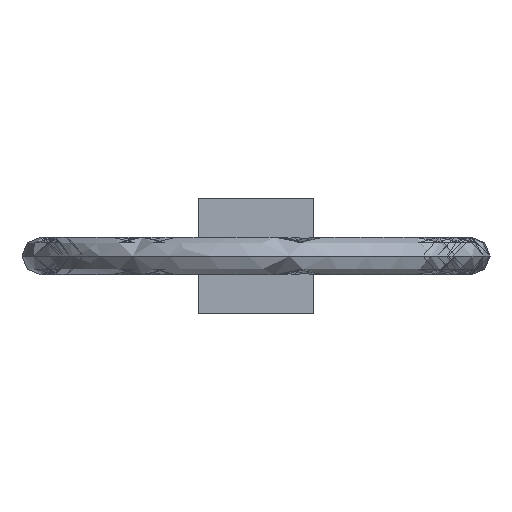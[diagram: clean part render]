
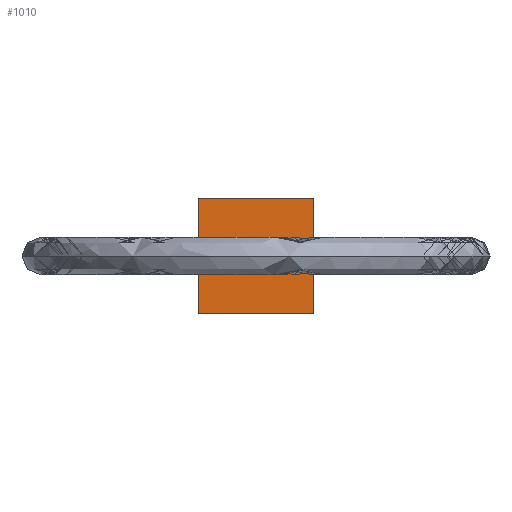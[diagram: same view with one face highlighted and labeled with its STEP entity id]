
A CAD part, left-side view. The second image highlights one B-rep face of the part: STEP entity #1010.
In plain terms, the highlighted planar face has unit normal (1, 0, 0).
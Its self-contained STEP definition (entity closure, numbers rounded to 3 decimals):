
#55 = CARTESIAN_POINT ( 'NONE',  ( -422., -0.405, 0. ) ) ;
#86 = ORIENTED_EDGE ( 'NONE', *, *, #1614, .F. ) ;
#218 = EDGE_LOOP ( 'NONE', ( #86, #689, #389, #329 ) ) ;
#227 = EDGE_CURVE ( 'NONE', #273, #281, #1073, .T. ) ;
#231 = VERTEX_POINT ( 'NONE', #1176 ) ;
#244 = ORIENTED_EDGE ( 'NONE', *, *, #227, .F. ) ;
#263 = EDGE_CURVE ( 'NONE', #231, #1403, #1816, .T. ) ;
#273 = VERTEX_POINT ( 'NONE', #55 ) ;
#281 = VERTEX_POINT ( 'NONE', #1017 ) ;
#287 = EDGE_CURVE ( 'NONE', #281, #273, #1312, .T. ) ;
#305 = ORIENTED_EDGE ( 'NONE', *, *, #287, .F. ) ;
#329 = ORIENTED_EDGE ( 'NONE', *, *, #782, .F. ) ;
#330 = VERTEX_POINT ( 'NONE', #686 ) ;
#389 = ORIENTED_EDGE ( 'NONE', *, *, #668, .F. ) ;
#668 = EDGE_CURVE ( 'NONE', #330, #231, #1441, .T. ) ;
#686 = CARTESIAN_POINT ( 'NONE',  ( -422., 1.25, -1.25 ) ) ;
#689 = ORIENTED_EDGE ( 'NONE', *, *, #263, .F. ) ;
#781 = EDGE_LOOP ( 'NONE', ( #305, #244 ) ) ;
#782 = EDGE_CURVE ( 'NONE', #1188, #330, #1534, .T. ) ;
#848 = CARTESIAN_POINT ( 'NONE',  ( -422., -1.25, 1.25 ) ) ;
#1010 = ADVANCED_FACE ( 'NONE', ( #1673, #1674 ), #1675, .T. ) ;
#1017 = CARTESIAN_POINT ( 'NONE',  ( -422., 0.405, 0. ) ) ;
#1073 = B_SPLINE_CURVE_WITH_KNOTS ( 'NONE', 3,
 ( #1074, #1075, #1076, #1077, #1078, #1079, #1080, #1081, #1086, #1087, #1088, #1089, #1090, #1091, #1092, #1093, #1094, #1095, #1096, #1097, #1098, #1099, #1100, #1101, #1103, #1104, #1105, #1106, #1107, #1108 ),
 .UNSPECIFIED., .F., .F.,
 ( 4, 2, 1, 1, 2, 2, 1, 2, 2, 2, 1, 2, 2, 1, 1, 2, 2, 4 ),
 ( 0., 0.125, 0.188, 0.219, 0.234, 0.25, 0.313, 0.344, 0.375, 0.5, 0.563, 0.594, 0.625, 0.688, 0.719, 0.734, 0.75, 1. ),
 .UNSPECIFIED. ) ;
#1074 = CARTESIAN_POINT ( 'NONE',  ( -422., -0.405, 0. ) ) ;
#1075 = CARTESIAN_POINT ( 'NONE',  ( -422., -0.405, -0.045 ) ) ;
#1076 = CARTESIAN_POINT ( 'NONE',  ( -422., -0.398, -0.088 ) ) ;
#1077 = CARTESIAN_POINT ( 'NONE',  ( -422., -0.378, -0.149 ) ) ;
#1078 = CARTESIAN_POINT ( 'NONE',  ( -422., -0.365, -0.178 ) ) ;
#1079 = CARTESIAN_POINT ( 'NONE',  ( -422., -0.346, -0.211 ) ) ;
#1080 = CARTESIAN_POINT ( 'NONE',  ( -422., -0.337, -0.225 ) ) ;
#1081 = CARTESIAN_POINT ( 'NONE',  ( -422., -0.331, -0.234 ) ) ;
#1086 = CARTESIAN_POINT ( 'NONE',  ( -422., -0.329, -0.237 ) ) ;
#1087 = CARTESIAN_POINT ( 'NONE',  ( -422., -0.306, -0.267 ) ) ;
#1088 = CARTESIAN_POINT ( 'NONE',  ( -422., -0.276, -0.299 ) ) ;
#1089 = CARTESIAN_POINT ( 'NONE',  ( -422., -0.241, -0.326 ) ) ;
#1090 = CARTESIAN_POINT ( 'NONE',  ( -422., -0.216, -0.343 ) ) ;
#1091 = CARTESIAN_POINT ( 'NONE',  ( -422., -0.206, -0.349 ) ) ;
#1092 = CARTESIAN_POINT ( 'NONE',  ( -422., -0.131, -0.389 ) ) ;
#1093 = CARTESIAN_POINT ( 'NONE',  ( -422., -0.068, -0.405 ) ) ;
#1094 = CARTESIAN_POINT ( 'NONE',  ( -422., 0.034, -0.405 ) ) ;
#1095 = CARTESIAN_POINT ( 'NONE',  ( -422., 0.083, -0.399 ) ) ;
#1096 = CARTESIAN_POINT ( 'NONE',  ( -422., 0.13, -0.384 ) ) ;
#1097 = CARTESIAN_POINT ( 'NONE',  ( -422., 0.161, -0.372 ) ) ;
#1098 = CARTESIAN_POINT ( 'NONE',  ( -422., 0.177, -0.364 ) ) ;
#1099 = CARTESIAN_POINT ( 'NONE',  ( -422., 0.217, -0.343 ) ) ;
#1100 = CARTESIAN_POINT ( 'NONE',  ( -422., 0.254, -0.318 ) ) ;
#1101 = CARTESIAN_POINT ( 'NONE',  ( -422., 0.291, -0.283 ) ) ;
#1103 = CARTESIAN_POINT ( 'NONE',  ( -422., 0.305, -0.266 ) ) ;
#1104 = CARTESIAN_POINT ( 'NONE',  ( -422., 0.315, -0.255 ) ) ;
#1105 = CARTESIAN_POINT ( 'NONE',  ( -422., 0.321, -0.248 ) ) ;
#1106 = CARTESIAN_POINT ( 'NONE',  ( -422., 0.378, -0.17 ) ) ;
#1107 = CARTESIAN_POINT ( 'NONE',  ( -422., 0.405, -0.09 ) ) ;
#1108 = CARTESIAN_POINT ( 'NONE',  ( -422., 0.405, 0. ) ) ;
#1161 = LINE ( 'NONE', #1162, #1163 ) ;
#1162 = CARTESIAN_POINT ( 'NONE',  ( -422., 0., 1.25 ) ) ;
#1163 = VECTOR ( 'NONE', #1164, 1000. ) ;
#1164 = DIRECTION ( 'NONE',  ( 0., 1., 0. ) ) ;
#1176 = CARTESIAN_POINT ( 'NONE',  ( -422., -1.25, -1.25 ) ) ;
#1188 = VERTEX_POINT ( 'NONE', #1873 ) ;
#1312 = B_SPLINE_CURVE_WITH_KNOTS ( 'NONE', 3,
 ( #1313, #1314, #1315, #1317, #1318, #1319, #1320, #1321, #1322, #1323, #1324, #1325, #1326, #1327, #1328, #1329, #1330, #1331, #1332, #1333, #1334, #1335, #1336, #1337, #1338, #1339, #1340, #1341, #1342, #1343 ),
 .UNSPECIFIED., .F., .F.,
 ( 4, 2, 1, 1, 2, 2, 1, 2, 2, 2, 1, 2, 2, 1, 1, 2, 2, 4 ),
 ( 0., 0.125, 0.187, 0.219, 0.234, 0.25, 0.312, 0.344, 0.375, 0.5, 0.562, 0.594, 0.625, 0.687, 0.719, 0.734, 0.75, 1. ),
 .UNSPECIFIED. ) ;
#1313 = CARTESIAN_POINT ( 'NONE',  ( -422., 0.405, 0. ) ) ;
#1314 = CARTESIAN_POINT ( 'NONE',  ( -422., 0.405, 0.045 ) ) ;
#1315 = CARTESIAN_POINT ( 'NONE',  ( -422., 0.398, 0.088 ) ) ;
#1317 = CARTESIAN_POINT ( 'NONE',  ( -422., 0.378, 0.149 ) ) ;
#1318 = CARTESIAN_POINT ( 'NONE',  ( -422., 0.365, 0.178 ) ) ;
#1319 = CARTESIAN_POINT ( 'NONE',  ( -422., 0.346, 0.211 ) ) ;
#1320 = CARTESIAN_POINT ( 'NONE',  ( -422., 0.337, 0.225 ) ) ;
#1321 = CARTESIAN_POINT ( 'NONE',  ( -422., 0.331, 0.234 ) ) ;
#1322 = CARTESIAN_POINT ( 'NONE',  ( -422., 0.329, 0.237 ) ) ;
#1323 = CARTESIAN_POINT ( 'NONE',  ( -422., 0.306, 0.267 ) ) ;
#1324 = CARTESIAN_POINT ( 'NONE',  ( -422., 0.276, 0.299 ) ) ;
#1325 = CARTESIAN_POINT ( 'NONE',  ( -422., 0.241, 0.326 ) ) ;
#1326 = CARTESIAN_POINT ( 'NONE',  ( -422., 0.216, 0.343 ) ) ;
#1327 = CARTESIAN_POINT ( 'NONE',  ( -422., 0.206, 0.349 ) ) ;
#1328 = CARTESIAN_POINT ( 'NONE',  ( -422., 0.131, 0.389 ) ) ;
#1329 = CARTESIAN_POINT ( 'NONE',  ( -422., 0.068, 0.405 ) ) ;
#1330 = CARTESIAN_POINT ( 'NONE',  ( -422., -0.034, 0.405 ) ) ;
#1331 = CARTESIAN_POINT ( 'NONE',  ( -422., -0.083, 0.399 ) ) ;
#1332 = CARTESIAN_POINT ( 'NONE',  ( -422., -0.13, 0.384 ) ) ;
#1333 = CARTESIAN_POINT ( 'NONE',  ( -422., -0.161, 0.372 ) ) ;
#1334 = CARTESIAN_POINT ( 'NONE',  ( -422., -0.177, 0.364 ) ) ;
#1335 = CARTESIAN_POINT ( 'NONE',  ( -422., -0.217, 0.343 ) ) ;
#1336 = CARTESIAN_POINT ( 'NONE',  ( -422., -0.254, 0.318 ) ) ;
#1337 = CARTESIAN_POINT ( 'NONE',  ( -422., -0.291, 0.283 ) ) ;
#1338 = CARTESIAN_POINT ( 'NONE',  ( -422., -0.305, 0.266 ) ) ;
#1339 = CARTESIAN_POINT ( 'NONE',  ( -422., -0.315, 0.255 ) ) ;
#1340 = CARTESIAN_POINT ( 'NONE',  ( -422., -0.321, 0.248 ) ) ;
#1341 = CARTESIAN_POINT ( 'NONE',  ( -422., -0.378, 0.17 ) ) ;
#1342 = CARTESIAN_POINT ( 'NONE',  ( -422., -0.405, 0.09 ) ) ;
#1343 = CARTESIAN_POINT ( 'NONE',  ( -422., -0.405, 0. ) ) ;
#1403 = VERTEX_POINT ( 'NONE', #848 ) ;
#1441 = LINE ( 'NONE', #1442, #1443 ) ;
#1442 = CARTESIAN_POINT ( 'NONE',  ( -422., 0., -1.25 ) ) ;
#1443 = VECTOR ( 'NONE', #1444, 1000. ) ;
#1444 = DIRECTION ( 'NONE',  ( 0., -1., 0. ) ) ;
#1534 = LINE ( 'NONE', #1535, #1536 ) ;
#1535 = CARTESIAN_POINT ( 'NONE',  ( -422., 1.25, 0. ) ) ;
#1536 = VECTOR ( 'NONE', #1537, 1000. ) ;
#1537 = DIRECTION ( 'NONE',  ( 0., 0., -1. ) ) ;
#1614 = EDGE_CURVE ( 'NONE', #1403, #1188, #1161, .T. ) ;
#1673 = FACE_BOUND ( 'NONE', #781, .T. ) ;
#1674 = FACE_OUTER_BOUND ( 'NONE', #218, .T. ) ;
#1675 = PLANE ( 'NONE',  #1676 ) ;
#1676 = AXIS2_PLACEMENT_3D ( 'NONE', #1677, #1678, #1679 ) ;
#1677 = CARTESIAN_POINT ( 'NONE',  ( -422., -1.3, -1.3 ) ) ;
#1678 = DIRECTION ( 'NONE',  ( 1., 0., 0. ) ) ;
#1679 = DIRECTION ( 'NONE',  ( 0., 1., 0. ) ) ;
#1816 = LINE ( 'NONE', #1817, #1818 ) ;
#1817 = CARTESIAN_POINT ( 'NONE',  ( -422., -1.25, 0. ) ) ;
#1818 = VECTOR ( 'NONE', #1819, 1000. ) ;
#1819 = DIRECTION ( 'NONE',  ( 0., 0., 1. ) ) ;
#1873 = CARTESIAN_POINT ( 'NONE',  ( -422., 1.25, 1.25 ) ) ;
